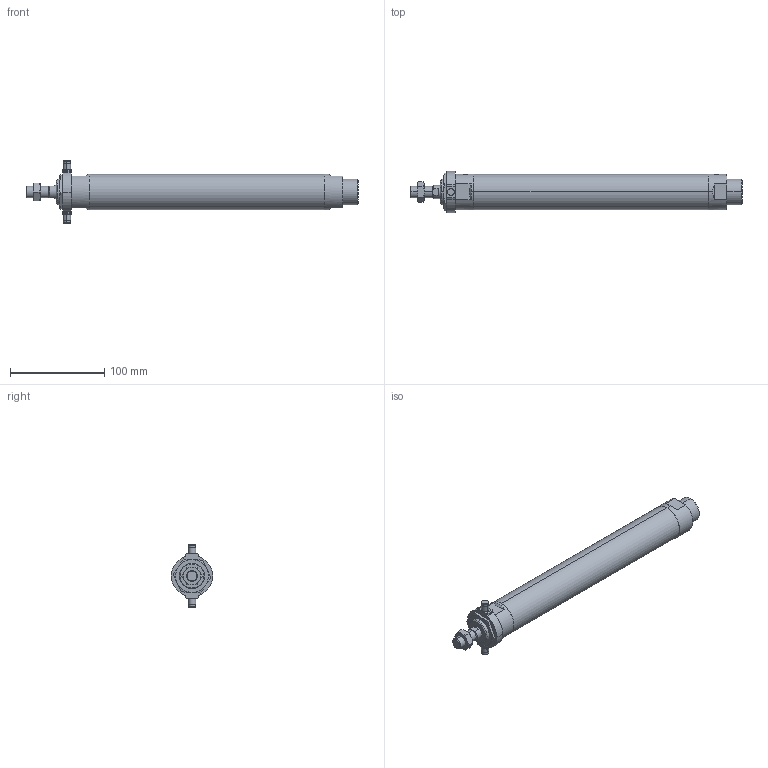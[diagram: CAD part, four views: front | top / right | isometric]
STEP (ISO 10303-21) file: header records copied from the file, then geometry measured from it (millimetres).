
FILE_DESCRIPTION (( 'STEP AP203' ), '1' );
FILE_NAME ('J#2-32-200-T.STEP', '2016-03-08T07:44:14', ( '' ), ( '' ), 'SwSTEP 2.0', 'SolidWorks 2014', '' );
FILE_SCHEMA (( 'CONFIG_CONTROL_DESIGN' ));
Length unit declared in the file: millimetre
Products named in the file (5): J#2-32-200-T; J#2-32-200; J#2-32-T
Assembly tree (4 placements, depth 2):
  J#2-32-200-T
    J#2-32-200
    (unnamed)
    (unnamed)
    J#2-32-T
Bounding box: 353 x 44 x 66 mm (x, y, z)
Volume: 352937 mm3; surface area: 48815.6 mm2
Topology: 4 solids, 4 shells, 133 faces, 303 edges, 183 vertices
Faces by surface type: cylinder 43, plane 43, torus 24, cone 23
Entity records: 4649 total; most frequent: CARTESIAN_POINT 1181, DIRECTION 640, ORIENTED_EDGE 598, EDGE_CURVE 299, AXIS2_PLACEMENT_3D 264, VERTEX_POINT 183, EDGE_LOOP 148, FACE_OUTER_BOUND 133
